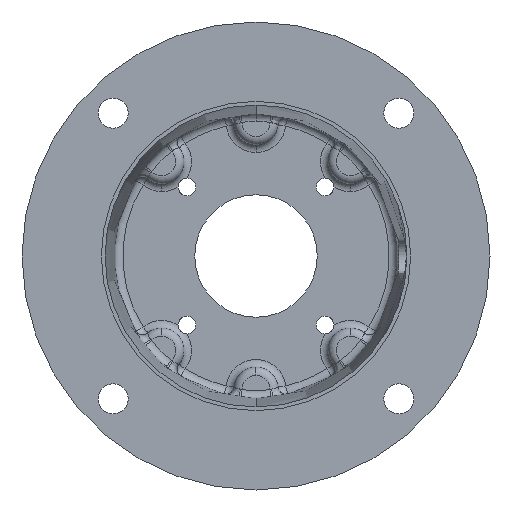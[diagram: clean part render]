
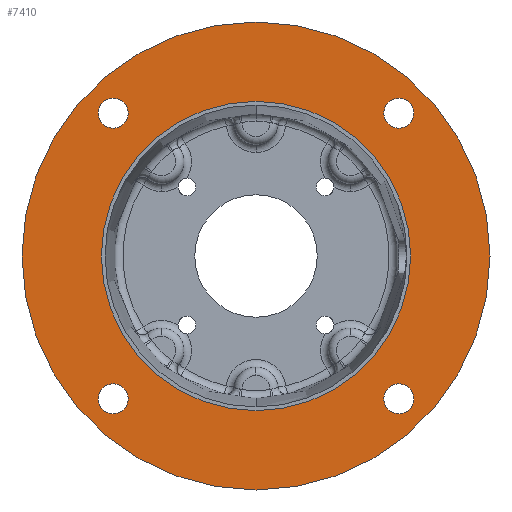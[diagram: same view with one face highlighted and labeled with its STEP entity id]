
A CAD part, front view. The second image highlights one B-rep face of the part: STEP entity #7410.
In plain terms, the highlighted planar face has unit normal (0, -1, 0).
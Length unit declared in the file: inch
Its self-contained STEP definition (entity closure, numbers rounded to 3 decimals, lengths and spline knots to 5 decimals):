
#506 = CARTESIAN_POINT ( 'NONE',  ( 2.07889, 0., 2.29764 ) ) ;
#555 = CARTESIAN_POINT ( 'NONE',  ( 2.07889, 0., -1.86014 ) ) ;
#560 = CARTESIAN_POINT ( 'NONE',  ( -2.07889, 0., 1.86014 ) ) ;
#612 = CARTESIAN_POINT ( 'NONE',  ( 2.07889, 0., -2.29764 ) ) ;
#627 = CARTESIAN_POINT ( 'NONE',  ( -2.07889, 0., -1.86014 ) ) ;
#628 = DIRECTION ( 'NONE',  ( 0., 0., 1. ) ) ;
#629 = DIRECTION ( 'NONE',  ( 0., 1., 0. ) ) ;
#630 = CARTESIAN_POINT ( 'NONE',  ( 2.07889, 0., 2.07889 ) ) ;
#631 = AXIS2_PLACEMENT_3D ( 'NONE', #630, #629, #628 ) ;
#632 = CIRCLE ( 'NONE', #631, 0.21875 ) ;
#638 = CARTESIAN_POINT ( 'NONE',  ( 2.07889, 0., 1.86014 ) ) ;
#661 = CARTESIAN_POINT ( 'NONE',  ( -2.07889, 0., -2.29764 ) ) ;
#662 = DIRECTION ( 'NONE',  ( 0., 0., 1. ) ) ;
#663 = DIRECTION ( 'NONE',  ( 0., 1., 0. ) ) ;
#664 = CARTESIAN_POINT ( 'NONE',  ( 2.07889, 0., -2.07889 ) ) ;
#665 = AXIS2_PLACEMENT_3D ( 'NONE', #664, #663, #662 ) ;
#666 = CIRCLE ( 'NONE', #665, 0.21875 ) ;
#697 = CARTESIAN_POINT ( 'NONE',  ( 0., 0., -2.2505 ) ) ;
#698 = DIRECTION ( 'NONE',  ( 0., 0., -1. ) ) ;
#699 = DIRECTION ( 'NONE',  ( 0., -1., 0. ) ) ;
#700 = CARTESIAN_POINT ( 'NONE',  ( 0., 0., 0. ) ) ;
#701 = AXIS2_PLACEMENT_3D ( 'NONE', #700, #699, #698 ) ;
#702 = CIRCLE ( 'NONE', #701, 2.2505 ) ;
#707 = CARTESIAN_POINT ( 'NONE',  ( 0., 0., 2.2505 ) ) ;
#2029 = CARTESIAN_POINT ( 'NONE',  ( 0., 0., 0. ) ) ;
#2030 = AXIS2_PLACEMENT_3D ( 'NONE', #2029, #2100, #2099 ) ;
#2031 = CIRCLE ( 'NONE', #2030, 3.405 ) ;
#2098 = CARTESIAN_POINT ( 'NONE',  ( 0., 0., -3.405 ) ) ;
#2099 = DIRECTION ( 'NONE',  ( 0., 0., -1. ) ) ;
#2100 = DIRECTION ( 'NONE',  ( 0., -1., 0. ) ) ;
#3235 = DIRECTION ( 'NONE',  ( 0., 0., -1. ) ) ;
#3236 = DIRECTION ( 'NONE',  ( 0., -1., 0. ) ) ;
#3237 = CARTESIAN_POINT ( 'NONE',  ( 0., 0., 0. ) ) ;
#3238 = AXIS2_PLACEMENT_3D ( 'NONE', #3237, #3236, #3235 ) ;
#3239 = CIRCLE ( 'NONE', #3238, 3.405 ) ;
#3449 = DIRECTION ( 'NONE',  ( 0., 0., -1. ) ) ;
#3450 = DIRECTION ( 'NONE',  ( 0., -1., 0. ) ) ;
#3451 = CARTESIAN_POINT ( 'NONE',  ( 0., 0., 0. ) ) ;
#3452 = AXIS2_PLACEMENT_3D ( 'NONE', #3451, #3450, #3449 ) ;
#3453 = CIRCLE ( 'NONE', #3452, 2.2505 ) ;
#3454 = CARTESIAN_POINT ( 'NONE',  ( -2.07889, 0., 2.07889 ) ) ;
#3494 = DIRECTION ( 'NONE',  ( 0., 0., 1. ) ) ;
#3495 = DIRECTION ( 'NONE',  ( 0., 1., 0. ) ) ;
#3496 = CARTESIAN_POINT ( 'NONE',  ( 2.07889, 0., 2.07889 ) ) ;
#3497 = AXIS2_PLACEMENT_3D ( 'NONE', #3496, #3495, #3494 ) ;
#3498 = CIRCLE ( 'NONE', #3497, 0.21875 ) ;
#3499 = DIRECTION ( 'NONE',  ( 0., 0., 1. ) ) ;
#3500 = DIRECTION ( 'NONE',  ( 0., 1., 0. ) ) ;
#3501 = CARTESIAN_POINT ( 'NONE',  ( 2.07889, 0., -2.07889 ) ) ;
#3502 = AXIS2_PLACEMENT_3D ( 'NONE', #3501, #3500, #3499 ) ;
#3503 = CIRCLE ( 'NONE', #3502, 0.21875 ) ;
#3504 = DIRECTION ( 'NONE',  ( 0., 0., 1. ) ) ;
#3505 = DIRECTION ( 'NONE',  ( 0., 1., 0. ) ) ;
#3506 = AXIS2_PLACEMENT_3D ( 'NONE', #3512, #3505, #3504 ) ;
#3507 = CIRCLE ( 'NONE', #3506, 0.21875 ) ;
#3508 = DIRECTION ( 'NONE',  ( 0., 0., 1. ) ) ;
#3509 = DIRECTION ( 'NONE',  ( 0., 1., 0. ) ) ;
#3510 = AXIS2_PLACEMENT_3D ( 'NONE', #3454, #3509, #3508 ) ;
#3511 = CIRCLE ( 'NONE', #3510, 0.21875 ) ;
#3512 = CARTESIAN_POINT ( 'NONE',  ( -2.07889, 0., -2.07889 ) ) ;
#3604 = PLANE ( 'NONE',  #3605 ) ;
#3605 = AXIS2_PLACEMENT_3D ( 'NONE', #3666, #3665, #3664 ) ;
#3606 = FACE_OUTER_BOUND ( 'NONE', #7353, .T. ) ;
#3607 = FACE_BOUND ( 'NONE', #7355, .T. ) ;
#3608 = FACE_BOUND ( 'NONE', #7357, .T. ) ;
#3609 = FACE_BOUND ( 'NONE', #7348, .T. ) ;
#3610 = FACE_BOUND ( 'NONE', #7356, .T. ) ;
#3611 = FACE_BOUND ( 'NONE', #7363, .T. ) ;
#3664 = DIRECTION ( 'NONE',  ( 0., 0., 1. ) ) ;
#3665 = DIRECTION ( 'NONE',  ( 0., 1., 0. ) ) ;
#3666 = CARTESIAN_POINT ( 'NONE',  ( -2.20315, 0., 0. ) ) ;
#4608 = VERTEX_POINT ( 'NONE', #506 ) ;
#4645 = VERTEX_POINT ( 'NONE', #560 ) ;
#4646 = VERTEX_POINT ( 'NONE', #555 ) ;
#4662 = VERTEX_POINT ( 'NONE', #638 ) ;
#4668 = EDGE_CURVE ( 'NONE', #4662, #4608, #632, .T. ) ;
#4670 = VERTEX_POINT ( 'NONE', #627 ) ;
#4682 = VERTEX_POINT ( 'NONE', #612 ) ;
#4687 = EDGE_CURVE ( 'NONE', #4682, #4646, #666, .T. ) ;
#4688 = VERTEX_POINT ( 'NONE', #661 ) ;
#4699 = EDGE_CURVE ( 'NONE', #4688, #4670, #5625, .T. ) ;
#4724 = EDGE_CURVE ( 'NONE', #4645, #4725, #5681, .T. ) ;
#4725 = VERTEX_POINT ( 'NONE', #5677 ) ;
#4809 = VERTEX_POINT ( 'NONE', #707 ) ;
#4811 = EDGE_CURVE ( 'NONE', #4809, #4812, #702, .T. ) ;
#4812 = VERTEX_POINT ( 'NONE', #697 ) ;
#5004 = CARTESIAN_POINT ( 'NONE',  ( 0., 0., 3.405 ) ) ;
#5621 = DIRECTION ( 'NONE',  ( 0., 0., 1. ) ) ;
#5622 = DIRECTION ( 'NONE',  ( 0., 1., 0. ) ) ;
#5623 = CARTESIAN_POINT ( 'NONE',  ( -2.07889, 0., -2.07889 ) ) ;
#5624 = AXIS2_PLACEMENT_3D ( 'NONE', #5623, #5622, #5621 ) ;
#5625 = CIRCLE ( 'NONE', #5624, 0.21875 ) ;
#5677 = CARTESIAN_POINT ( 'NONE',  ( -2.07889, 0., 2.29764 ) ) ;
#5678 = DIRECTION ( 'NONE',  ( 0., 0., 1. ) ) ;
#5679 = DIRECTION ( 'NONE',  ( 0., 1., 0. ) ) ;
#5680 = AXIS2_PLACEMENT_3D ( 'NONE', #5687, #5679, #5678 ) ;
#5681 = CIRCLE ( 'NONE', #5680, 0.21875 ) ;
#5687 = CARTESIAN_POINT ( 'NONE',  ( -2.07889, 0., 2.07889 ) ) ;
#6347 = EDGE_CURVE ( 'NONE', #6348, #6366, #2031, .T. ) ;
#6348 = VERTEX_POINT ( 'NONE', #2098 ) ;
#6366 = VERTEX_POINT ( 'NONE', #5004 ) ;
#7238 = EDGE_CURVE ( 'NONE', #6366, #6348, #3239, .T. ) ;
#7347 = EDGE_CURVE ( 'NONE', #4812, #4809, #3453, .T. ) ;
#7348 = EDGE_LOOP ( 'NONE', ( #7352, #7349 ) ) ;
#7349 = ORIENTED_EDGE ( 'NONE', *, *, #4699, .T. ) ;
#7350 = ORIENTED_EDGE ( 'NONE', *, *, #7351, .T. ) ;
#7351 = EDGE_CURVE ( 'NONE', #4725, #4645, #3511, .T. ) ;
#7352 = ORIENTED_EDGE ( 'NONE', *, *, #7358, .T. ) ;
#7353 = EDGE_LOOP ( 'NONE', ( #7354, #7360 ) ) ;
#7354 = ORIENTED_EDGE ( 'NONE', *, *, #6347, .T. ) ;
#7355 = EDGE_LOOP ( 'NONE', ( #7368, #7366 ) ) ;
#7356 = EDGE_LOOP ( 'NONE', ( #7367, #7413 ) ) ;
#7357 = EDGE_LOOP ( 'NONE', ( #7350, #7359 ) ) ;
#7358 = EDGE_CURVE ( 'NONE', #4670, #4688, #3507, .T. ) ;
#7359 = ORIENTED_EDGE ( 'NONE', *, *, #4724, .T. ) ;
#7360 = ORIENTED_EDGE ( 'NONE', *, *, #7238, .T. ) ;
#7362 = EDGE_CURVE ( 'NONE', #4646, #4682, #3503, .T. ) ;
#7363 = EDGE_LOOP ( 'NONE', ( #7412, #7411 ) ) ;
#7365 = EDGE_CURVE ( 'NONE', #4608, #4662, #3498, .T. ) ;
#7366 = ORIENTED_EDGE ( 'NONE', *, *, #4668, .T. ) ;
#7367 = ORIENTED_EDGE ( 'NONE', *, *, #7362, .T. ) ;
#7368 = ORIENTED_EDGE ( 'NONE', *, *, #7365, .T. ) ;
#7410 = ADVANCED_FACE ( 'NONE', ( #3611, #3610, #3609, #3608, #3607, #3606 ), #3604, .F. ) ;
#7411 = ORIENTED_EDGE ( 'NONE', *, *, #4811, .F. ) ;
#7412 = ORIENTED_EDGE ( 'NONE', *, *, #7347, .F. ) ;
#7413 = ORIENTED_EDGE ( 'NONE', *, *, #4687, .T. ) ;
